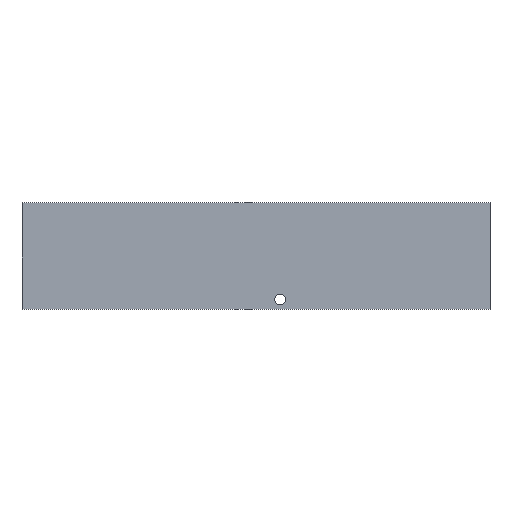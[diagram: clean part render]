
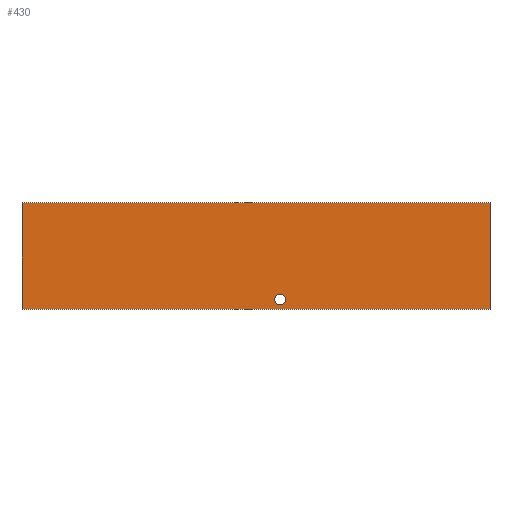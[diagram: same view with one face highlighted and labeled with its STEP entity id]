
A CAD part, top view. The second image highlights one B-rep face of the part: STEP entity #430.
In plain terms, the highlighted planar face has unit normal (0, 0, 1).
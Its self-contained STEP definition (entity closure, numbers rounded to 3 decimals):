
#35 = VERTEX_POINT('',#36);
#36 = CARTESIAN_POINT('',(0.,0.,0.891));
#43 = PLANE('',#44);
#44 = AXIS2_PLACEMENT_3D('',#45,#46,#47);
#45 = CARTESIAN_POINT('',(0.,0.,0.));
#46 = DIRECTION('',(-1.,0.,0.));
#47 = DIRECTION('',(0.,1.,0.));
#55 = PLANE('',#56);
#56 = AXIS2_PLACEMENT_3D('',#57,#58,#59);
#57 = CARTESIAN_POINT('',(35.,0.,0.));
#58 = DIRECTION('',(0.,-1.,0.));
#59 = DIRECTION('',(-1.,0.,0.));
#67 = EDGE_CURVE('',#35,#68,#70,.T.);
#68 = VERTEX_POINT('',#69);
#69 = CARTESIAN_POINT('',(0.,8.,0.891));
#70 = SURFACE_CURVE('',#71,(#75,#82),.PCURVE_S1.);
#71 = LINE('',#72,#73);
#72 = CARTESIAN_POINT('',(0.,0.,0.891));
#73 = VECTOR('',#74,1.);
#74 = DIRECTION('',(0.,1.,0.));
#75 = PCURVE('',#43,#76);
#76 = DEFINITIONAL_REPRESENTATION('',(#77),#81);
#77 = LINE('',#78,#79);
#78 = CARTESIAN_POINT('',(0.,-0.891));
#79 = VECTOR('',#80,1.);
#80 = DIRECTION('',(1.,0.));
#81 = ( GEOMETRIC_REPRESENTATION_CONTEXT(2) 
PARAMETRIC_REPRESENTATION_CONTEXT() REPRESENTATION_CONTEXT('2D SPACE',''
  ) );
#82 = PCURVE('',#83,#88);
#83 = PLANE('',#84);
#84 = AXIS2_PLACEMENT_3D('',#85,#86,#87);
#85 = CARTESIAN_POINT('',(0.,0.,0.891));
#86 = DIRECTION('',(0.,0.,1.));
#87 = DIRECTION('',(1.,0.,0.));
#88 = DEFINITIONAL_REPRESENTATION('',(#89),#93);
#89 = LINE('',#90,#91);
#90 = CARTESIAN_POINT('',(0.,0.));
#91 = VECTOR('',#92,1.);
#92 = DIRECTION('',(0.,1.));
#93 = ( GEOMETRIC_REPRESENTATION_CONTEXT(2) 
PARAMETRIC_REPRESENTATION_CONTEXT() REPRESENTATION_CONTEXT('2D SPACE',''
  ) );
#111 = PLANE('',#112);
#112 = AXIS2_PLACEMENT_3D('',#113,#114,#115);
#113 = CARTESIAN_POINT('',(0.,8.,0.));
#114 = DIRECTION('',(0.,1.,0.));
#115 = DIRECTION('',(1.,0.,0.));
#153 = EDGE_CURVE('',#68,#154,#156,.T.);
#154 = VERTEX_POINT('',#155);
#155 = CARTESIAN_POINT('',(35.,8.,0.891));
#156 = SURFACE_CURVE('',#157,(#161,#168),.PCURVE_S1.);
#157 = LINE('',#158,#159);
#158 = CARTESIAN_POINT('',(0.,8.,0.891));
#159 = VECTOR('',#160,1.);
#160 = DIRECTION('',(1.,0.,0.));
#161 = PCURVE('',#111,#162);
#162 = DEFINITIONAL_REPRESENTATION('',(#163),#167);
#163 = LINE('',#164,#165);
#164 = CARTESIAN_POINT('',(0.,-0.891));
#165 = VECTOR('',#166,1.);
#166 = DIRECTION('',(1.,0.));
#167 = ( GEOMETRIC_REPRESENTATION_CONTEXT(2) 
PARAMETRIC_REPRESENTATION_CONTEXT() REPRESENTATION_CONTEXT('2D SPACE',''
  ) );
#168 = PCURVE('',#83,#169);
#169 = DEFINITIONAL_REPRESENTATION('',(#170),#174);
#170 = LINE('',#171,#172);
#171 = CARTESIAN_POINT('',(0.,8.));
#172 = VECTOR('',#173,1.);
#173 = DIRECTION('',(1.,0.));
#174 = ( GEOMETRIC_REPRESENTATION_CONTEXT(2) 
PARAMETRIC_REPRESENTATION_CONTEXT() REPRESENTATION_CONTEXT('2D SPACE',''
  ) );
#192 = PLANE('',#193);
#193 = AXIS2_PLACEMENT_3D('',#194,#195,#196);
#194 = CARTESIAN_POINT('',(35.,8.,0.));
#195 = DIRECTION('',(1.,0.,0.));
#196 = DIRECTION('',(0.,-1.,0.));
#229 = EDGE_CURVE('',#154,#230,#232,.T.);
#230 = VERTEX_POINT('',#231);
#231 = CARTESIAN_POINT('',(35.,0.,0.891));
#232 = SURFACE_CURVE('',#233,(#237,#244),.PCURVE_S1.);
#233 = LINE('',#234,#235);
#234 = CARTESIAN_POINT('',(35.,8.,0.891));
#235 = VECTOR('',#236,1.);
#236 = DIRECTION('',(0.,-1.,0.));
#237 = PCURVE('',#192,#238);
#238 = DEFINITIONAL_REPRESENTATION('',(#239),#243);
#239 = LINE('',#240,#241);
#240 = CARTESIAN_POINT('',(0.,-0.891));
#241 = VECTOR('',#242,1.);
#242 = DIRECTION('',(1.,0.));
#243 = ( GEOMETRIC_REPRESENTATION_CONTEXT(2) 
PARAMETRIC_REPRESENTATION_CONTEXT() REPRESENTATION_CONTEXT('2D SPACE',''
  ) );
#244 = PCURVE('',#83,#245);
#245 = DEFINITIONAL_REPRESENTATION('',(#246),#250);
#246 = LINE('',#247,#248);
#247 = CARTESIAN_POINT('',(35.,8.));
#248 = VECTOR('',#249,1.);
#249 = DIRECTION('',(0.,-1.));
#250 = ( GEOMETRIC_REPRESENTATION_CONTEXT(2) 
PARAMETRIC_REPRESENTATION_CONTEXT() REPRESENTATION_CONTEXT('2D SPACE',''
  ) );
#300 = EDGE_CURVE('',#230,#35,#301,.T.);
#301 = SURFACE_CURVE('',#302,(#306,#313),.PCURVE_S1.);
#302 = LINE('',#303,#304);
#303 = CARTESIAN_POINT('',(35.,0.,0.891));
#304 = VECTOR('',#305,1.);
#305 = DIRECTION('',(-1.,0.,0.));
#306 = PCURVE('',#55,#307);
#307 = DEFINITIONAL_REPRESENTATION('',(#308),#312);
#308 = LINE('',#309,#310);
#309 = CARTESIAN_POINT('',(0.,-0.891));
#310 = VECTOR('',#311,1.);
#311 = DIRECTION('',(1.,0.));
#312 = ( GEOMETRIC_REPRESENTATION_CONTEXT(2) 
PARAMETRIC_REPRESENTATION_CONTEXT() REPRESENTATION_CONTEXT('2D SPACE',''
  ) );
#313 = PCURVE('',#83,#314);
#314 = DEFINITIONAL_REPRESENTATION('',(#315),#319);
#315 = LINE('',#316,#317);
#316 = CARTESIAN_POINT('',(35.,0.));
#317 = VECTOR('',#318,1.);
#318 = DIRECTION('',(-1.,0.));
#319 = ( GEOMETRIC_REPRESENTATION_CONTEXT(2) 
PARAMETRIC_REPRESENTATION_CONTEXT() REPRESENTATION_CONTEXT('2D SPACE',''
  ) );
#349 = VERTEX_POINT('',#350);
#350 = CARTESIAN_POINT('',(19.7,0.746,0.891));
#357 = CYLINDRICAL_SURFACE('',#358,0.4);
#358 = AXIS2_PLACEMENT_3D('',#359,#360,#361);
#359 = CARTESIAN_POINT('',(19.3,0.746,0.));
#360 = DIRECTION('',(0.,0.,-1.));
#361 = DIRECTION('',(1.,0.,0.));
#376 = EDGE_CURVE('',#349,#349,#377,.T.);
#377 = SURFACE_CURVE('',#378,(#383,#390),.PCURVE_S1.);
#378 = CIRCLE('',#379,0.4);
#379 = AXIS2_PLACEMENT_3D('',#380,#381,#382);
#380 = CARTESIAN_POINT('',(19.3,0.746,0.891));
#381 = DIRECTION('',(0.,0.,1.));
#382 = DIRECTION('',(1.,0.,0.));
#383 = PCURVE('',#357,#384);
#384 = DEFINITIONAL_REPRESENTATION('',(#385),#389);
#385 = LINE('',#386,#387);
#386 = CARTESIAN_POINT('',(0.,-0.891));
#387 = VECTOR('',#388,1.);
#388 = DIRECTION('',(-1.,0.));
#389 = ( GEOMETRIC_REPRESENTATION_CONTEXT(2) 
PARAMETRIC_REPRESENTATION_CONTEXT() REPRESENTATION_CONTEXT('2D SPACE',''
  ) );
#390 = PCURVE('',#83,#391);
#391 = DEFINITIONAL_REPRESENTATION('',(#392),#396);
#392 = CIRCLE('',#393,0.4);
#393 = AXIS2_PLACEMENT_2D('',#394,#395);
#394 = CARTESIAN_POINT('',(19.3,0.746));
#395 = DIRECTION('',(1.,0.));
#396 = ( GEOMETRIC_REPRESENTATION_CONTEXT(2) 
PARAMETRIC_REPRESENTATION_CONTEXT() REPRESENTATION_CONTEXT('2D SPACE',''
  ) );
#430 = ADVANCED_FACE('',(#431,#437),#83,.T.);
#431 = FACE_BOUND('',#432,.F.);
#432 = EDGE_LOOP('',(#433,#434,#435,#436));
#433 = ORIENTED_EDGE('',*,*,#67,.T.);
#434 = ORIENTED_EDGE('',*,*,#153,.T.);
#435 = ORIENTED_EDGE('',*,*,#229,.T.);
#436 = ORIENTED_EDGE('',*,*,#300,.T.);
#437 = FACE_BOUND('',#438,.T.);
#438 = EDGE_LOOP('',(#439));
#439 = ORIENTED_EDGE('',*,*,#376,.F.);
